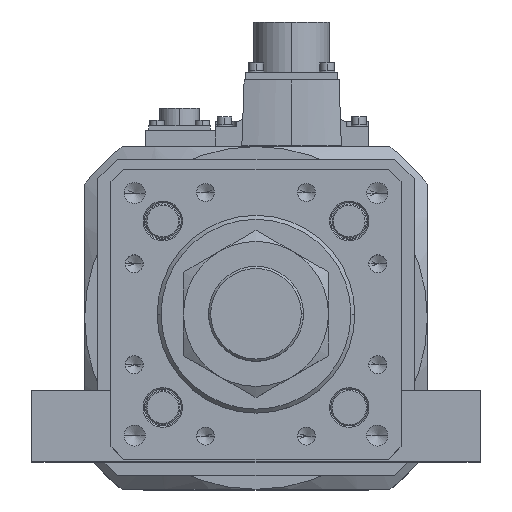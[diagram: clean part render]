
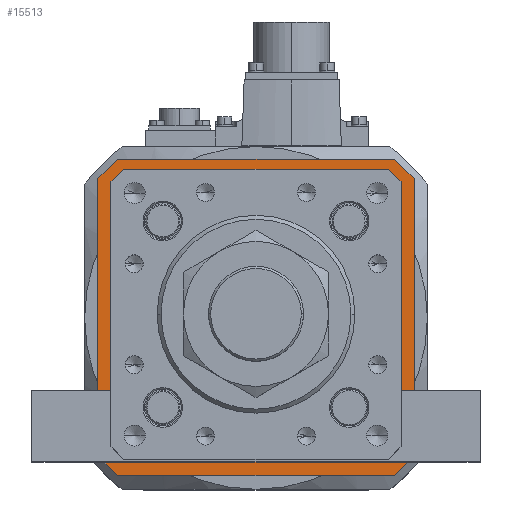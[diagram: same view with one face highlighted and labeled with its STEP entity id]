
A CAD part, top view. The second image highlights one B-rep face of the part: STEP entity #15513.
In plain terms, the highlighted planar face has unit normal (0, 0, 1) as drawn and (0, 0, -1) by its records, which use the part's own axes.
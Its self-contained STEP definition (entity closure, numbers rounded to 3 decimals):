
#368 = VECTOR ( 'NONE', #23709, 1000. ) ;
#559 = VERTEX_POINT ( 'NONE', #16889 ) ;
#833 = CARTESIAN_POINT ( 'NONE',  ( 60., -52.5, 52. ) ) ;
#973 = ORIENTED_EDGE ( 'NONE', *, *, #26522, .T. ) ;
#1232 = VECTOR ( 'NONE', #30684, 1000. ) ;
#1607 = VERTEX_POINT ( 'NONE', #16558 ) ;
#1608 = VECTOR ( 'NONE', #34172, 1000. ) ;
#2719 = ORIENTED_EDGE ( 'NONE', *, *, #16239, .T. ) ;
#2959 = ORIENTED_EDGE ( 'NONE', *, *, #13280, .T. ) ;
#3731 = CARTESIAN_POINT ( 'NONE',  ( 51.546, 51.546, 52. ) ) ;
#4225 = VECTOR ( 'NONE', #14806, 1000. ) ;
#4432 = EDGE_CURVE ( 'NONE', #33565, #31356, #29241, .T. ) ;
#4639 = ORIENTED_EDGE ( 'NONE', *, *, #20734, .T. ) ;
#5036 = CARTESIAN_POINT ( 'NONE',  ( 60., 60., 52. ) ) ;
#5931 = DIRECTION ( 'NONE',  ( 1., 0., 0. ) ) ;
#6594 = LINE ( 'NONE', #25839, #9414 ) ;
#7246 = LINE ( 'NONE', #23651, #23722 ) ;
#7765 = ORIENTED_EDGE ( 'NONE', *, *, #29813, .F. ) ;
#7903 = CARTESIAN_POINT ( 'NONE',  ( 52.5, -60., 52. ) ) ;
#8852 = CARTESIAN_POINT ( 'NONE',  ( 49.593, 53.5, 52. ) ) ;
#9028 = EDGE_CURVE ( 'NONE', #13529, #29819, #27468, .T. ) ;
#9202 = VECTOR ( 'NONE', #20664, 1000. ) ;
#9399 = VECTOR ( 'NONE', #13908, 1000. ) ;
#9414 = VECTOR ( 'NONE', #38173, 1000. ) ;
#9793 = EDGE_CURVE ( 'NONE', #31171, #19248, #33352, .T. ) ;
#10956 = VECTOR ( 'NONE', #35232, 1000. ) ;
#11204 = ORIENTED_EDGE ( 'NONE', *, *, #4432, .T. ) ;
#11465 = CARTESIAN_POINT ( 'NONE',  ( -49.593, -53.5, 52. ) ) ;
#11482 = EDGE_CURVE ( 'NONE', #559, #29819, #35127, .T. ) ;
#11504 = VECTOR ( 'NONE', #33801, 1000. ) ;
#11987 = CARTESIAN_POINT ( 'NONE',  ( 0., 0., 52. ) ) ;
#12431 = EDGE_LOOP ( 'NONE', ( #7765, #20932, #20014, #18743, #25871, #2959, #14809, #11204 ) ) ;
#12890 = DIRECTION ( 'NONE',  ( -1., 0., 0. ) ) ;
#12919 = DIRECTION ( 'NONE',  ( -0.707, -0.707, 0. ) ) ;
#13280 = EDGE_CURVE ( 'NONE', #13529, #32874, #31226, .T. ) ;
#13529 = VERTEX_POINT ( 'NONE', #34712 ) ;
#13595 = LINE ( 'NONE', #15120, #23742 ) ;
#13908 = DIRECTION ( 'NONE',  ( -0.707, 0.707, 0. ) ) ;
#14334 = CARTESIAN_POINT ( 'NONE',  ( -52.5, 60., 52. ) ) ;
#14602 = LINE ( 'NONE', #34728, #4225 ) ;
#14806 = DIRECTION ( 'NONE',  ( 0., -1., 0. ) ) ;
#14809 = ORIENTED_EDGE ( 'NONE', *, *, #30893, .F. ) ;
#15024 = CARTESIAN_POINT ( 'NONE',  ( 53.5, 49.8, 52. ) ) ;
#15071 = CARTESIAN_POINT ( 'NONE',  ( -51.546, 51.546, 52. ) ) ;
#15120 = CARTESIAN_POINT ( 'NONE',  ( 51.546, -51.546, 52. ) ) ;
#15431 = CARTESIAN_POINT ( 'NONE',  ( 60., 52.5, 52. ) ) ;
#15513 = ADVANCED_FACE ( 'NONE', ( #24930, #29652 ), #18141, .F. ) ;
#16239 = EDGE_CURVE ( 'NONE', #18905, #1607, #13595, .T. ) ;
#16552 = EDGE_CURVE ( 'NONE', #559, #19248, #14602, .T. ) ;
#16558 = CARTESIAN_POINT ( 'NONE',  ( 53.5, -49.593, 52. ) ) ;
#16889 = CARTESIAN_POINT ( 'NONE',  ( -60., 52.5, 52. ) ) ;
#18141 = PLANE ( 'NONE',  #35640 ) ;
#18453 = DIRECTION ( 'NONE',  ( -0.707, -0.707, 0. ) ) ;
#18743 = ORIENTED_EDGE ( 'NONE', *, *, #11482, .T. ) ;
#18905 = VERTEX_POINT ( 'NONE', #36372 ) ;
#19004 = ORIENTED_EDGE ( 'NONE', *, *, #35138, .T. ) ;
#19021 = DIRECTION ( 'NONE',  ( 0.707, 0.707, 0. ) ) ;
#19248 = VERTEX_POINT ( 'NONE', #33175 ) ;
#19337 = VECTOR ( 'NONE', #12919, 1000. ) ;
#20014 = ORIENTED_EDGE ( 'NONE', *, *, #16552, .F. ) ;
#20664 = DIRECTION ( 'NONE',  ( 0., 1., 0. ) ) ;
#20734 = EDGE_CURVE ( 'NONE', #26763, #33558, #27916, .T. ) ;
#20932 = ORIENTED_EDGE ( 'NONE', *, *, #9793, .T. ) ;
#21848 = VECTOR ( 'NONE', #18453, 1000. ) ;
#22231 = VERTEX_POINT ( 'NONE', #34070 ) ;
#22335 = EDGE_LOOP ( 'NONE', ( #23391, #33237, #4639, #30385, #973, #19004, #2719, #29405 ) ) ;
#23145 = EDGE_CURVE ( 'NONE', #23783, #26763, #24968, .T. ) ;
#23391 = ORIENTED_EDGE ( 'NONE', *, *, #30153, .T. ) ;
#23651 = CARTESIAN_POINT ( 'NONE',  ( -53.5, -49.8, 52. ) ) ;
#23709 = DIRECTION ( 'NONE',  ( 1., 0., 0. ) ) ;
#23722 = VECTOR ( 'NONE', #29033, 1000. ) ;
#23742 = VECTOR ( 'NONE', #19021, 1000. ) ;
#23783 = VERTEX_POINT ( 'NONE', #8852 ) ;
#23962 = CARTESIAN_POINT ( 'NONE',  ( -49.593, 53.5, 52. ) ) ;
#24313 = LINE ( 'NONE', #26459, #368 ) ;
#24455 = CARTESIAN_POINT ( 'NONE',  ( -52.5, -60., 52. ) ) ;
#24813 = CARTESIAN_POINT ( 'NONE',  ( -60., 60., 52. ) ) ;
#24930 = FACE_BOUND ( 'NONE', #22335, .T. ) ;
#24968 = LINE ( 'NONE', #31515, #33316 ) ;
#25738 = DIRECTION ( 'NONE',  ( -1., 0., 0. ) ) ;
#25839 = CARTESIAN_POINT ( 'NONE',  ( -60., -60., 52. ) ) ;
#25871 = ORIENTED_EDGE ( 'NONE', *, *, #9028, .F. ) ;
#26459 = CARTESIAN_POINT ( 'NONE',  ( 49.8, -53.5, 52. ) ) ;
#26522 = EDGE_CURVE ( 'NONE', #22231, #34173, #27062, .T. ) ;
#26763 = VERTEX_POINT ( 'NONE', #23962 ) ;
#27062 = LINE ( 'NONE', #31207, #1232 ) ;
#27330 = EDGE_CURVE ( 'NONE', #33558, #22231, #7246, .T. ) ;
#27468 = LINE ( 'NONE', #24813, #36379 ) ;
#27916 = LINE ( 'NONE', #15071, #21848 ) ;
#28377 = LINE ( 'NONE', #3731, #1608 ) ;
#29033 = DIRECTION ( 'NONE',  ( 0., -1., 0. ) ) ;
#29241 = LINE ( 'NONE', #833, #19337 ) ;
#29405 = ORIENTED_EDGE ( 'NONE', *, *, #35778, .T. ) ;
#29577 = DIRECTION ( 'NONE',  ( 0., 0., 1. ) ) ;
#29652 = FACE_OUTER_BOUND ( 'NONE', #12431, .T. ) ;
#29813 = EDGE_CURVE ( 'NONE', #31171, #31356, #6594, .T. ) ;
#29819 = VERTEX_POINT ( 'NONE', #14334 ) ;
#30153 = EDGE_CURVE ( 'NONE', #36361, #23783, #28377, .T. ) ;
#30291 = DIRECTION ( 'NONE',  ( 0.707, 0.707, 0. ) ) ;
#30385 = ORIENTED_EDGE ( 'NONE', *, *, #27330, .T. ) ;
#30411 = CARTESIAN_POINT ( 'NONE',  ( 52.5, 60., 52. ) ) ;
#30684 = DIRECTION ( 'NONE',  ( 0.707, -0.707, 0. ) ) ;
#30893 = EDGE_CURVE ( 'NONE', #33565, #32874, #33940, .T. ) ;
#31171 = VERTEX_POINT ( 'NONE', #24455 ) ;
#31207 = CARTESIAN_POINT ( 'NONE',  ( -51.546, -51.546, 52. ) ) ;
#31226 = LINE ( 'NONE', #30411, #11504 ) ;
#31356 = VERTEX_POINT ( 'NONE', #7903 ) ;
#31515 = CARTESIAN_POINT ( 'NONE',  ( -49.8, 53.5, 52. ) ) ;
#31863 = VECTOR ( 'NONE', #30291, 1000. ) ;
#32356 = CARTESIAN_POINT ( 'NONE',  ( -53.5, 49.593, 52. ) ) ;
#32493 = CARTESIAN_POINT ( 'NONE',  ( 60., -52.5, 52. ) ) ;
#32874 = VERTEX_POINT ( 'NONE', #15431 ) ;
#33052 = CARTESIAN_POINT ( 'NONE',  ( -60., 52.5, 52. ) ) ;
#33175 = CARTESIAN_POINT ( 'NONE',  ( -60., -52.5, 52. ) ) ;
#33237 = ORIENTED_EDGE ( 'NONE', *, *, #23145, .T. ) ;
#33316 = VECTOR ( 'NONE', #25738, 1000. ) ;
#33352 = LINE ( 'NONE', #35245, #9399 ) ;
#33361 = CARTESIAN_POINT ( 'NONE',  ( 53.5, 49.593, 52. ) ) ;
#33558 = VERTEX_POINT ( 'NONE', #32356 ) ;
#33565 = VERTEX_POINT ( 'NONE', #32493 ) ;
#33637 = LINE ( 'NONE', #15024, #9202 ) ;
#33801 = DIRECTION ( 'NONE',  ( 0.707, -0.707, 0. ) ) ;
#33940 = LINE ( 'NONE', #5036, #10956 ) ;
#34070 = CARTESIAN_POINT ( 'NONE',  ( -53.5, -49.593, 52. ) ) ;
#34172 = DIRECTION ( 'NONE',  ( -0.707, 0.707, 0. ) ) ;
#34173 = VERTEX_POINT ( 'NONE', #11465 ) ;
#34712 = CARTESIAN_POINT ( 'NONE',  ( 52.5, 60., 52. ) ) ;
#34728 = CARTESIAN_POINT ( 'NONE',  ( -60., 60., 52. ) ) ;
#35127 = LINE ( 'NONE', #33052, #31863 ) ;
#35138 = EDGE_CURVE ( 'NONE', #34173, #18905, #24313, .T. ) ;
#35232 = DIRECTION ( 'NONE',  ( 0., 1., 0. ) ) ;
#35245 = CARTESIAN_POINT ( 'NONE',  ( -52.5, -60., 52. ) ) ;
#35640 = AXIS2_PLACEMENT_3D ( 'NONE', #11987, #29577, #5931 ) ;
#35778 = EDGE_CURVE ( 'NONE', #1607, #36361, #33637, .T. ) ;
#36361 = VERTEX_POINT ( 'NONE', #33361 ) ;
#36372 = CARTESIAN_POINT ( 'NONE',  ( 49.593, -53.5, 52. ) ) ;
#36379 = VECTOR ( 'NONE', #12890, 1000. ) ;
#38173 = DIRECTION ( 'NONE',  ( 1., 0., 0. ) ) ;
